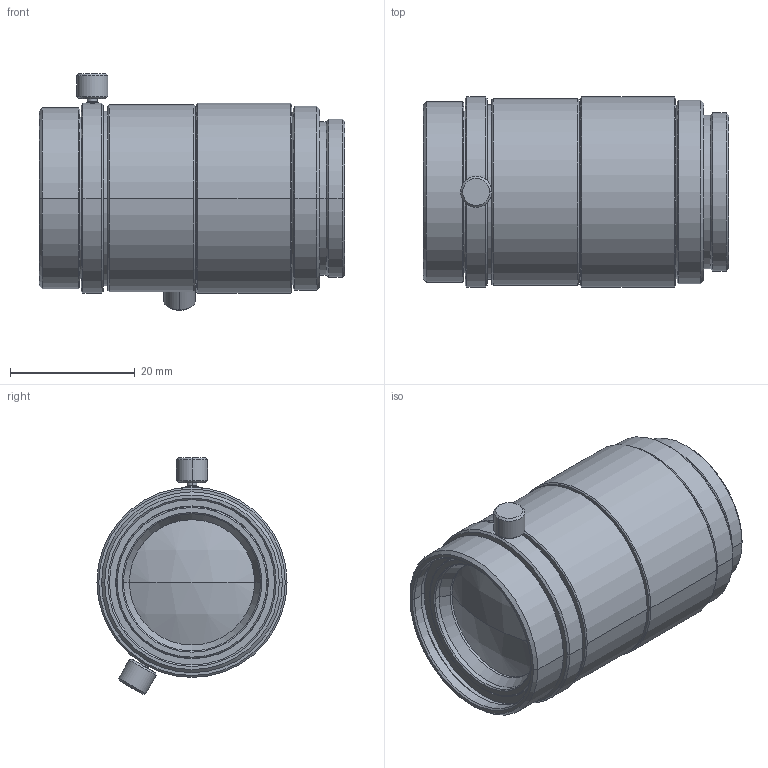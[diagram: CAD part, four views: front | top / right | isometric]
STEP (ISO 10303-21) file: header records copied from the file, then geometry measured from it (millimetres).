
FILE_DESCRIPTION (( 'STEP AP203' ), '1' );
FILE_NAME ('VS-LDA50.STEP', '2016-12-02T08:02:43', ( '' ), ( '' ), 'SwSTEP 2.0', 'SolidWorks 2016', '' );
FILE_SCHEMA (( 'CONFIG_CONTROL_DESIGN' ));
Length unit declared in the file: millimetre
Products named in the file (1): VS-LDA50
Bounding box: 49 x 30.5 x 37.98 mm (x, y, z)
Volume: 27258.7 mm3; surface area: 8277.1 mm2
Topology: 1 solids, 1 shells, 142 faces, 282 edges, 163 vertices
Faces by surface type: cone 69, cylinder 46, plane 21, sphere 4, torus 2
Entity records: 3776 total; most frequent: DIRECTION 727, CARTESIAN_POINT 647, ORIENTED_EDGE 564, AXIS2_PLACEMENT_3D 307, EDGE_CURVE 282, CIRCLE 164, EDGE_LOOP 163, VERTEX_POINT 163
